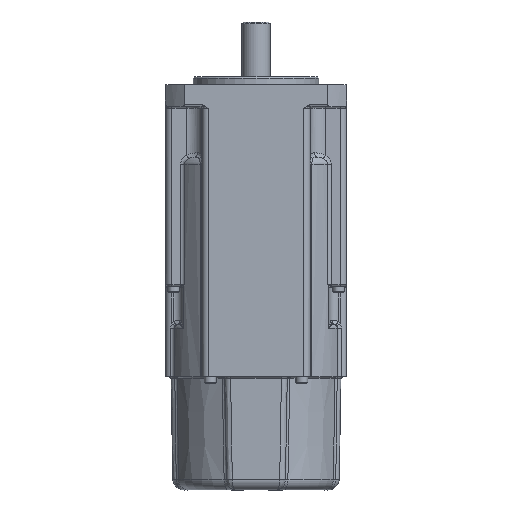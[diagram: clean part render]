
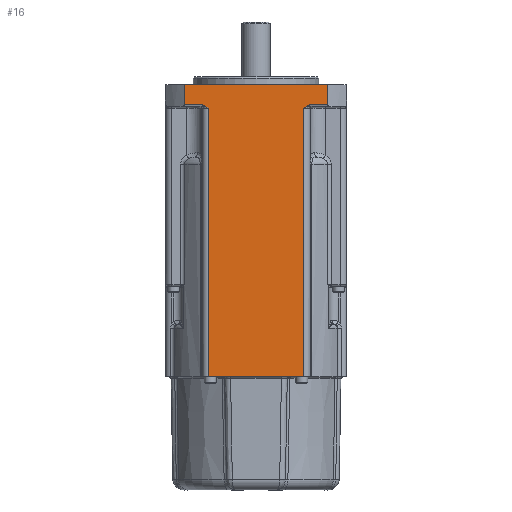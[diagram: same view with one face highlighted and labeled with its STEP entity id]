
A CAD part, front view. The second image highlights one B-rep face of the part: STEP entity #16.
In plain terms, the highlighted planar face has unit normal (0, -1, 0).
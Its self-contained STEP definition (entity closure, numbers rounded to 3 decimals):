
#7 = EDGE_LOOP ( 'NONE', ( #26649, #26176, #25911, #26030, #26303, #26301, #19867, #26049, #26008, #25592 ) ) ;
#16 = ADVANCED_FACE ( 'NONE', ( #3069 ), #3063, .T. ) ;
#2611 = VERTEX_POINT ( 'NONE', #14133 ) ;
#2628 = VERTEX_POINT ( 'NONE', #14183 ) ;
#2816 = EDGE_CURVE ( 'NONE', #2628, #2611, #15387, .T. ) ;
#3057 = DIRECTION ( 'NONE',  ( 1., 0., 0. ) ) ;
#3058 = DIRECTION ( 'NONE',  ( 0., -1., 0. ) ) ;
#3059 = CARTESIAN_POINT ( 'NONE',  ( -29., -29., -7.8 ) ) ;
#3060 = AXIS2_PLACEMENT_3D ( 'NONE', #3059, #3058, #3057 ) ;
#3063 = PLANE ( 'NONE',  #3060 ) ;
#3069 = FACE_OUTER_BOUND ( 'NONE', #7, .T. ) ;
#10030 = CARTESIAN_POINT ( 'NONE',  ( 17.226, -29., -7.304 ) ) ;
#10031 = CARTESIAN_POINT ( 'NONE',  ( 17.035, -29., -7.304 ) ) ;
#10032 = CARTESIAN_POINT ( 'NONE',  ( 16.847, -29., -7.339 ) ) ;
#10034 = CARTESIAN_POINT ( 'NONE',  ( 16.485, -29., -7.454 ) ) ;
#10035 = CARTESIAN_POINT ( 'NONE',  ( 16.315, -29., -7.534 ) ) ;
#10036 = CARTESIAN_POINT ( 'NONE',  ( 15.823, -29., -7.815 ) ) ;
#10038 = CARTESIAN_POINT ( 'NONE',  ( 15.526, -29., -8.056 ) ) ;
#10040 = CARTESIAN_POINT ( 'NONE',  ( 15.232, -29., -8.296 ) ) ;
#10051 = B_SPLINE_CURVE_WITH_KNOTS ( 'NONE', 3,
 ( #10040, #10038, #10036, #10035, #10034, #10032, #10031, #10030 ),
 .UNSPECIFIED., .F., .F.,
 ( 4, 2, 2, 4 ),
 ( 0., 0.001, 0.002, 0.002 ),
 .UNSPECIFIED. ) ;
#11832 = LINE ( 'NONE', #11941, #11940 ) ;
#11938 = DIRECTION ( 'NONE',  ( -1., 0., 0. ) ) ;
#11940 = VECTOR ( 'NONE', #11938, 1000. ) ;
#11941 = CARTESIAN_POINT ( 'NONE',  ( -29., -29., -0.8 ) ) ;
#11999 = CARTESIAN_POINT ( 'NONE',  ( 15.232, -29., -7.8 ) ) ;
#12000 = LINE ( 'NONE', #11999, #12093 ) ;
#12021 = CARTESIAN_POINT ( 'NONE',  ( 15.232, -29., -8.296 ) ) ;
#12092 = DIRECTION ( 'NONE',  ( 0., 0., 1. ) ) ;
#12093 = VECTOR ( 'NONE', #12092, 1000. ) ;
#12297 = CARTESIAN_POINT ( 'NONE',  ( 17.226, -29., -7.304 ) ) ;
#12355 = CARTESIAN_POINT ( 'NONE',  ( -22.978, -29., -7.304 ) ) ;
#12423 = CARTESIAN_POINT ( 'NONE',  ( 22.978, -29., -0.8 ) ) ;
#12433 = DIRECTION ( 'NONE',  ( 1., 0., 0. ) ) ;
#12434 = VECTOR ( 'NONE', #12433, 1000. ) ;
#12436 = CARTESIAN_POINT ( 'NONE',  ( 25.277, -29., -7.304 ) ) ;
#12438 = LINE ( 'NONE', #12436, #12434 ) ;
#13220 = CARTESIAN_POINT ( 'NONE',  ( -15.232, -29., -8.296 ) ) ;
#13223 = CARTESIAN_POINT ( 'NONE',  ( -15.525, -29., -8.056 ) ) ;
#13225 = CARTESIAN_POINT ( 'NONE',  ( -15.823, -29., -7.815 ) ) ;
#13226 = CARTESIAN_POINT ( 'NONE',  ( -16.315, -29., -7.534 ) ) ;
#13227 = CARTESIAN_POINT ( 'NONE',  ( -16.485, -29., -7.454 ) ) ;
#13228 = CARTESIAN_POINT ( 'NONE',  ( -16.847, -29., -7.339 ) ) ;
#13229 = CARTESIAN_POINT ( 'NONE',  ( -17.035, -29., -7.304 ) ) ;
#13230 = CARTESIAN_POINT ( 'NONE',  ( -17.226, -29., -7.304 ) ) ;
#13239 = B_SPLINE_CURVE_WITH_KNOTS ( 'NONE', 3,
 ( #13230, #13229, #13228, #13227, #13226, #13225, #13223, #13220 ),
 .UNSPECIFIED., .F., .F.,
 ( 4, 2, 2, 4 ),
 ( 0., 0.001, 0.001, 0.002 ),
 .UNSPECIFIED. ) ;
#13269 = CARTESIAN_POINT ( 'NONE',  ( -22.978, -29., -0.8 ) ) ;
#13539 = DIRECTION ( 'NONE',  ( 0., 0., -1. ) ) ;
#13540 = VECTOR ( 'NONE', #13539, 1000. ) ;
#13541 = CARTESIAN_POINT ( 'NONE',  ( -22.978, -29., 4.953 ) ) ;
#13542 = LINE ( 'NONE', #13541, #13540 ) ;
#13928 = DIRECTION ( 'NONE',  ( 0., 0., 1. ) ) ;
#13929 = VECTOR ( 'NONE', #13928, 1000. ) ;
#13932 = CARTESIAN_POINT ( 'NONE',  ( 22.978, -29., 4.953 ) ) ;
#13933 = LINE ( 'NONE', #13932, #13929 ) ;
#14133 = CARTESIAN_POINT ( 'NONE',  ( -15.232, -29., -94.2 ) ) ;
#14183 = CARTESIAN_POINT ( 'NONE',  ( 15.232, -29., -94.2 ) ) ;
#14303 = CARTESIAN_POINT ( 'NONE',  ( 22.978, -29., -7.304 ) ) ;
#14578 = DIRECTION ( 'NONE',  ( 1., 0., 0. ) ) ;
#14579 = VECTOR ( 'NONE', #14578, 1000. ) ;
#14580 = CARTESIAN_POINT ( 'NONE',  ( -15.232, -29., -7.304 ) ) ;
#14582 = LINE ( 'NONE', #14580, #14579 ) ;
#14600 = CARTESIAN_POINT ( 'NONE',  ( -17.226, -29., -7.304 ) ) ;
#14601 = CARTESIAN_POINT ( 'NONE',  ( -15.232, -29., -8.296 ) ) ;
#15384 = DIRECTION ( 'NONE',  ( -1., 0., 0. ) ) ;
#15385 = VECTOR ( 'NONE', #15384, 1000. ) ;
#15386 = CARTESIAN_POINT ( 'NONE',  ( -17.215, -29., -94.2 ) ) ;
#15387 = LINE ( 'NONE', #15386, #15385 ) ;
#19765 = EDGE_CURVE ( 'NONE', #26307, #2611, #21924, .T. ) ;
#19867 = ORIENTED_EDGE ( 'NONE', *, *, #19765, .T. ) ;
#21921 = DIRECTION ( 'NONE',  ( 0., 0., -1. ) ) ;
#21922 = VECTOR ( 'NONE', #21921, 1000. ) ;
#21923 = CARTESIAN_POINT ( 'NONE',  ( -15.232, -29., -94.2 ) ) ;
#21924 = LINE ( 'NONE', #21923, #21922 ) ;
#25591 = EDGE_CURVE ( 'NONE', #25948, #26014, #10051, .T. ) ;
#25592 = ORIENTED_EDGE ( 'NONE', *, *, #25591, .T. ) ;
#25911 = ORIENTED_EDGE ( 'NONE', *, *, #25921, .T. ) ;
#25921 = EDGE_CURVE ( 'NONE', #26042, #26122, #11832, .T. ) ;
#25948 = VERTEX_POINT ( 'NONE', #12021 ) ;
#25954 = EDGE_CURVE ( 'NONE', #2628, #25948, #12000, .T. ) ;
#26008 = ORIENTED_EDGE ( 'NONE', *, *, #25954, .T. ) ;
#26014 = VERTEX_POINT ( 'NONE', #12297 ) ;
#26021 = VERTEX_POINT ( 'NONE', #12355 ) ;
#26030 = ORIENTED_EDGE ( 'NONE', *, *, #26155, .T. ) ;
#26032 = EDGE_CURVE ( 'NONE', #26014, #26249, #12438, .T. ) ;
#26042 = VERTEX_POINT ( 'NONE', #12423 ) ;
#26049 = ORIENTED_EDGE ( 'NONE', *, *, #2816, .F. ) ;
#26103 = EDGE_CURVE ( 'NONE', #26308, #26307, #13239, .T. ) ;
#26122 = VERTEX_POINT ( 'NONE', #13269 ) ;
#26155 = EDGE_CURVE ( 'NONE', #26122, #26021, #13542, .T. ) ;
#26176 = ORIENTED_EDGE ( 'NONE', *, *, #26180, .T. ) ;
#26180 = EDGE_CURVE ( 'NONE', #26249, #26042, #13933, .T. ) ;
#26249 = VERTEX_POINT ( 'NONE', #14303 ) ;
#26301 = ORIENTED_EDGE ( 'NONE', *, *, #26103, .T. ) ;
#26303 = ORIENTED_EDGE ( 'NONE', *, *, #26311, .T. ) ;
#26307 = VERTEX_POINT ( 'NONE', #14601 ) ;
#26308 = VERTEX_POINT ( 'NONE', #14600 ) ;
#26311 = EDGE_CURVE ( 'NONE', #26021, #26308, #14582, .T. ) ;
#26649 = ORIENTED_EDGE ( 'NONE', *, *, #26032, .T. ) ;
